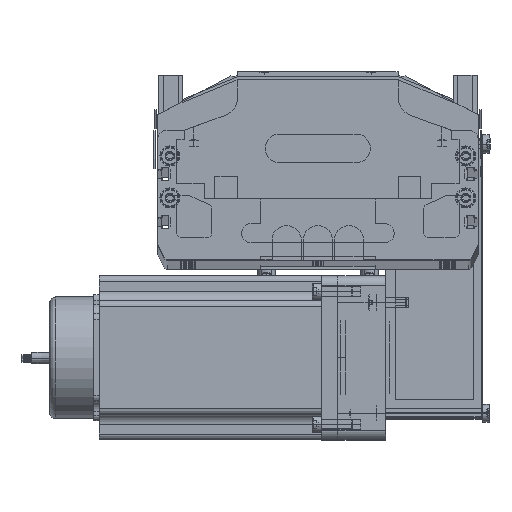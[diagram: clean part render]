
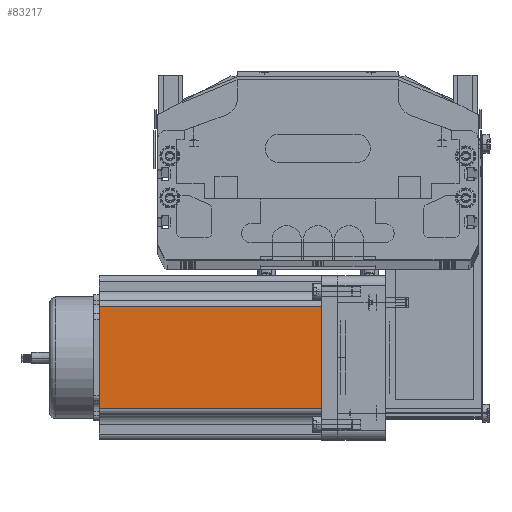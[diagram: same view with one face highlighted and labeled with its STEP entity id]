
A CAD part, top view. The second image highlights one B-rep face of the part: STEP entity #83217.
In plain terms, the highlighted planar face has unit normal (0, 0, 1) as drawn and (0, -1, 0) by its records, which use the part's own axes.
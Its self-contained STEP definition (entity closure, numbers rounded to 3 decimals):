
#55951 = CARTESIAN_POINT ( 'NONE',  ( 69.74, 0., 0. ) ) ;
#55954 = DIRECTION ( 'NONE',  ( 0., 0., 1. ) ) ;
#55955 = DIRECTION ( 'NONE',  ( 0., 1., 0. ) ) ;
#55965 = FACE_OUTER_BOUND ( 'NONE', #83204, .T. ) ;
#55971 = DIRECTION ( 'NONE',  ( 0., 0., 1. ) ) ;
#55973 = VECTOR ( 'NONE', #55971, 1000. ) ;
#55975 = CARTESIAN_POINT ( 'NONE',  ( 69.74, 0., 116.5 ) ) ;
#55976 = LINE ( 'NONE', #55975, #55973 ) ;
#55982 = AXIS2_PLACEMENT_3D ( 'NONE', #55993, #55955, #55954 ) ;
#55988 = PLANE ( 'NONE',  #55982 ) ;
#55993 = CARTESIAN_POINT ( 'NONE',  ( 0., 0., 116.5 ) ) ;
#56042 = CARTESIAN_POINT ( 'NONE',  ( 16.16, 0., 0. ) ) ;
#56182 = CARTESIAN_POINT ( 'NONE',  ( 69.74, 0., 116.5 ) ) ;
#56183 = CARTESIAN_POINT ( 'NONE',  ( 16.16, 0., 116.5 ) ) ;
#56224 = DIRECTION ( 'NONE',  ( 1., 0., 0. ) ) ;
#56225 = VECTOR ( 'NONE', #56224, 1000. ) ;
#56233 = LINE ( 'NONE', #56235, #56225 ) ;
#56235 = CARTESIAN_POINT ( 'NONE',  ( 0., 0., 0. ) ) ;
#56272 = DIRECTION ( 'NONE',  ( 0., 0., -1. ) ) ;
#56273 = VECTOR ( 'NONE', #56272, 1000. ) ;
#56274 = CARTESIAN_POINT ( 'NONE',  ( 16.16, 0., 116.5 ) ) ;
#56282 = LINE ( 'NONE', #56274, #56273 ) ;
#56295 = DIRECTION ( 'NONE',  ( 1., 0., 0. ) ) ;
#56296 = VECTOR ( 'NONE', #56295, 1000. ) ;
#56298 = CARTESIAN_POINT ( 'NONE',  ( 0., 0., 116.5 ) ) ;
#56299 = LINE ( 'NONE', #56298, #56296 ) ;
#83204 = EDGE_LOOP ( 'NONE', ( #83316, #83219, #83330, #83345 ) ) ;
#83212 = EDGE_CURVE ( 'NONE', #83218, #83274, #55976, .T. ) ;
#83217 = ADVANCED_FACE ( 'NONE', ( #55965 ), #55988, .F. ) ;
#83218 = VERTEX_POINT ( 'NONE', #55951 ) ;
#83219 = ORIENTED_EDGE ( 'NONE', *, *, #83212, .T. ) ;
#83233 = VERTEX_POINT ( 'NONE', #56042 ) ;
#83272 = VERTEX_POINT ( 'NONE', #56183 ) ;
#83274 = VERTEX_POINT ( 'NONE', #56182 ) ;
#83316 = ORIENTED_EDGE ( 'NONE', *, *, #83328, .T. ) ;
#83328 = EDGE_CURVE ( 'NONE', #83233, #83218, #56233, .T. ) ;
#83330 = ORIENTED_EDGE ( 'NONE', *, *, #83331, .F. ) ;
#83331 = EDGE_CURVE ( 'NONE', #83272, #83274, #56299, .T. ) ;
#83343 = EDGE_CURVE ( 'NONE', #83272, #83233, #56282, .T. ) ;
#83345 = ORIENTED_EDGE ( 'NONE', *, *, #83343, .T. ) ;
